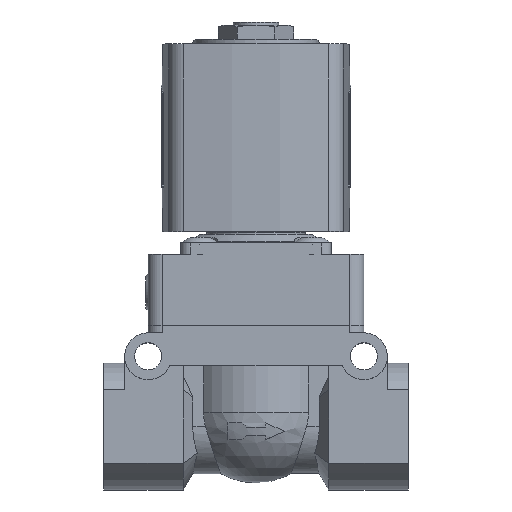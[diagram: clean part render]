
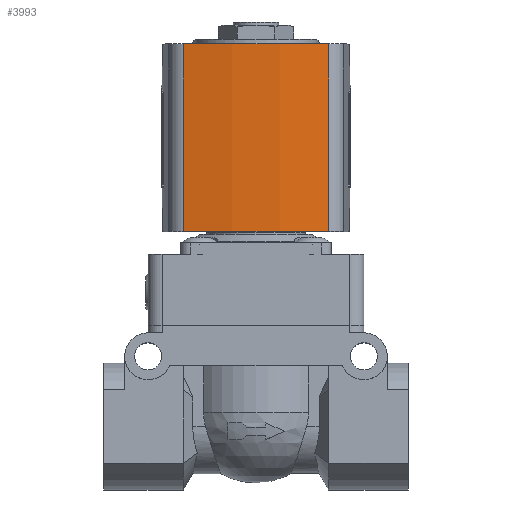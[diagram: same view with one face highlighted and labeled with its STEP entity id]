
A CAD part, top view. The second image highlights one B-rep face of the part: STEP entity #3993.
In plain terms, the highlighted cylindrical face has radius 80 mm (diameter 160 mm), a partial arc.
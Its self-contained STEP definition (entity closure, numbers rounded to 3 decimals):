
#121=CYLINDRICAL_SURFACE('',#5116,80.);
#385=LINE('',#7443,#703);
#386=LINE('',#7447,#704);
#703=VECTOR('',#6144,1000.);
#704=VECTOR('',#6149,1000.);
#1588=ORIENTED_EDGE('',*,*,#2349,.T.);
#1589=ORIENTED_EDGE('',*,*,#2350,.F.);
#1590=ORIENTED_EDGE('',*,*,#2297,.F.);
#1591=ORIENTED_EDGE('',*,*,#2348,.T.);
#2297=EDGE_CURVE('',#2749,#2750,#3015,.T.);
#2348=EDGE_CURVE('',#2749,#2793,#385,.T.);
#2349=EDGE_CURVE('',#2793,#2794,#3036,.T.);
#2350=EDGE_CURVE('',#2750,#2794,#386,.T.);
#2749=VERTEX_POINT('',#7343);
#2750=VERTEX_POINT('',#7344);
#2793=VERTEX_POINT('',#7442);
#2794=VERTEX_POINT('',#7446);
#3015=CIRCLE('',#5082,80.);
#3036=CIRCLE('',#5117,80.);
#3273=EDGE_LOOP('',(#1588,#1589,#1590,#1591));
#3585=FACE_BOUND('',#3273,.T.);
#3993=ADVANCED_FACE('',(#3585),#121,.T.);
#5082=AXIS2_PLACEMENT_3D('',#7342,#6054,#6055);
#5116=AXIS2_PLACEMENT_3D('',#7444,#6145,#6146);
#5117=AXIS2_PLACEMENT_3D('',#7445,#6147,#6148);
#6054=DIRECTION('',(0.,1.,0.));
#6055=DIRECTION('',(1.,0.,0.));
#6144=DIRECTION('',(0.,-1.,0.));
#6145=DIRECTION('',(0.,-1.,0.));
#6146=DIRECTION('',(0.,0.,-1.));
#6147=DIRECTION('',(0.,1.,0.));
#6148=DIRECTION('',(1.,0.,0.));
#6149=DIRECTION('',(0.,-1.,0.));
#7342=CARTESIAN_POINT('',(-56.5,14.,0.));
#7343=CARTESIAN_POINT('',(21.99,14.,15.472));
#7344=CARTESIAN_POINT('',(21.99,14.,-15.472));
#7442=CARTESIAN_POINT('',(21.99,-26.,15.472));
#7443=CARTESIAN_POINT('',(21.99,14.,15.472));
#7444=CARTESIAN_POINT('',(-56.5,14.,0.));
#7445=CARTESIAN_POINT('',(-56.5,-26.,0.));
#7446=CARTESIAN_POINT('',(21.99,-26.,-15.472));
#7447=CARTESIAN_POINT('',(21.99,14.,-15.472));
